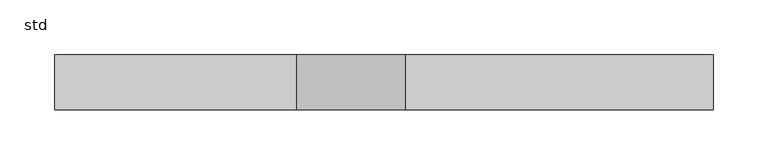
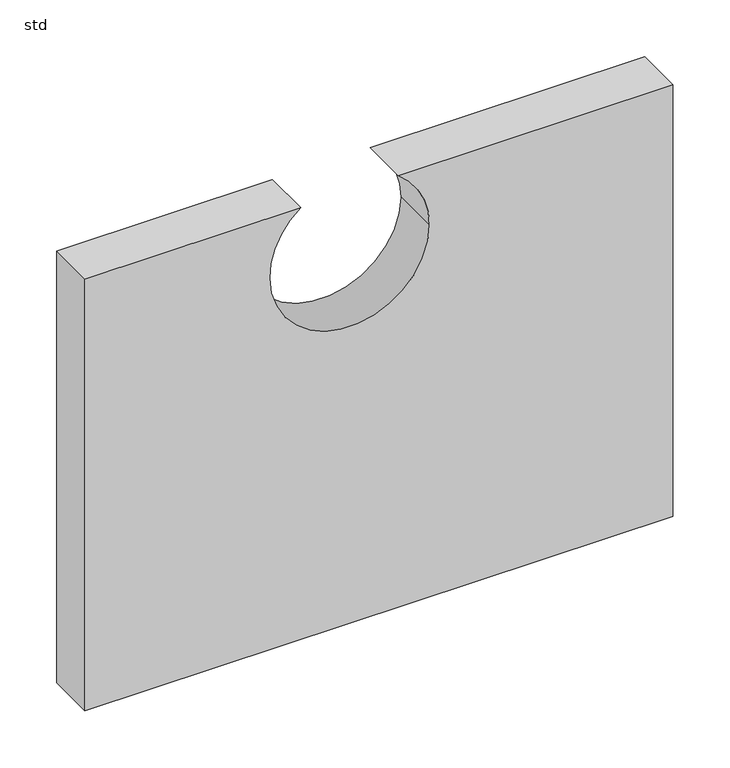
"""IFC4 building model written with IfcOpenShell, lengths in millimetres: unitary equipment geometry, Wavin_MechanicalEquipment_QBicPlusZDoNotUseConnectionPlate : std."""

from ifc_helpers import new_model, si_unit, point, frame, frame_2d, origin, place, context, project, spatial, polyline, circle_curve, trimmed, segment, composite_curve, outline, extrude, source, transform, mapped, element, save


def std_d7b6ca00(model_context):
    return source(origin(), model_context, "Body", "SweptSolid", [
        extrude(outline(composite_curve([segment(polyline([(92.0, 0.0), (92.0, 600.0), (558.0, 600.0), (558.0, 319.8196748)]), True, "CONTINUOUS"), segment(trimmed(circle_curve(frame_2d((493.5, 270.0)), 81.5), [point((558.0, 319.8196748))], [point((493.5, 351.5))], True, "CARTESIAN"), True, "CONTINUOUS"), segment(trimmed(circle_curve(frame_2d((493.5, 270.0)), 81.5), [point((493.5, 351.5))], [point((493.5, 188.5))], True, "CARTESIAN"), True, "CONTINUOUS"), segment(trimmed(circle_curve(frame_2d((493.5, 270.0)), 81.5), [point((493.5, 188.5))], [point((558.0, 220.1803252))], True, "CARTESIAN"), True, "CONTINUOUS"), segment(polyline([(558.0, 220.1803252), (558.0, 0.0), (92.0, 0.0)]), True, "CONTINUOUS")], self_intersect=False)), frame((0.0, 0.0, 0.0), z_axis=(0.0, 1.0, 0.0), x_axis=(0.0, 0.0, 1.0)), (0.0, 0.0, 1.0), 50.0),
    ])


if __name__ == "__main__":
    model = new_model("IFC4")
    model_context = context("Model", 3, world=origin())
    ifc_project = project(units=[si_unit("LENGTHUNIT", "METRE", prefix="MILLI")], contexts=[model_context])
    site = spatial("IfcSite", under=ifc_project)
    building = spatial("IfcBuilding", under=site)
    placement = place(None, origin())
    std_shape = std_d7b6ca00(model_context)
    element("IfcUnitaryEquipment", 1, ObjectType="Wavin_MechanicalEquipment_QBicPlusZDoNotUseConnectionPlate : std", at=placement, inside=building, context=model_context, shape_type="MappedRepresentation", body=[
        mapped(std_shape, transform((0.0, 0.0, 0.0), x_axis=(1.0, 0.0, 0.0), y_axis=(0.0, 1.0, 0.0), z_axis=(0.0, 0.0, 1.0))),
    ])
    save(model, "model.ifc")
